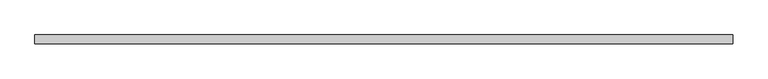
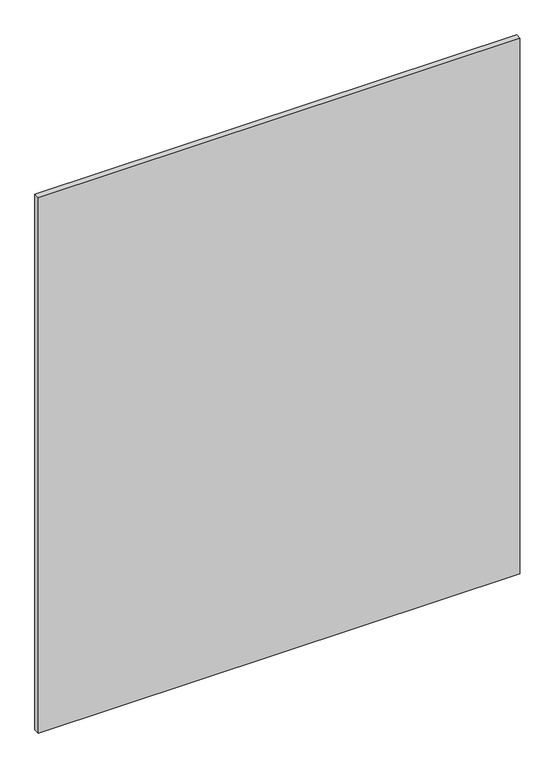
"""IFC4 building model written with IfcOpenShell, lengths in millimetres: plate geometry, 系统嵌板 : 玻璃."""

import ifcopenshell
import ifcopenshell.guid

model = None  # the IFC model being written
_history = None  # IfcOwnerHistory: only IFC2X3 demands one
_inside = {}  # id of a spatial element -> (the spatial element, [elements in it])
_under = {}  # id of a project, library or spatial element -> (it, [spatial elements below it])
_declared = {}  # id of a project -> (the project, [libraries it declares])
_typed = {}  # id of a type object -> (the type object, [elements of that type])
_made_of = {}  # id of a material, layer set ... -> (it, [elements and type objects made of it])


def new_model(schema):
    """Start an empty IFC model of exactly this schema.

    Asked for "IFC4X3", IfcOpenShell would pick the latest addendum, in which some entities
    have other attributes; the version numbers below select the first issue.
    IFC2X3 requires an IfcOwnerHistory on every rooted entity: one is made here for all.
    """
    global model, _history
    if schema == "IFC4X3":
        model = ifcopenshell.file(schema_version=(4, 3, 0, 0))
    else:
        model = ifcopenshell.file(schema=schema)
    _inside.clear()
    _under.clear()
    _declared.clear()
    _typed.clear()
    _made_of.clear()
    _history = None
    if model.schema == "IFC2X3":
        org = make("IfcOrganization", Name="unknown")
        user = make(
            "IfcPersonAndOrganization",
            ThePerson=make("IfcPerson", FamilyName="unknown"),
            TheOrganization=org,
        )
        app = make(
            "IfcApplication",
            ApplicationDeveloper=org,
            Version="unknown",
            ApplicationFullName="unknown",
            ApplicationIdentifier="unknown",
        )
        _history = make(
            "IfcOwnerHistory",
            OwningUser=user,
            OwningApplication=app,
            ChangeAction="ADDED",
            CreationDate=0,
        )
    return model


def make(cls, **values):
    """One entity of the class cls with the attributes given. An attribute that is None is left unset."""
    return model.create_entity(
        cls, **{name: value for name, value in values.items() if value is not None}
    )


def rooted(cls, **values):
    """An entity with a GlobalId (a new one), such as an element, a storey or a relation."""
    return make(cls, GlobalId=ifcopenshell.guid.new(), OwnerHistory=_history, **values)


def si_unit(unit_type, name, prefix=None):
    """IfcSIUnit, for example si_unit("LENGTHUNIT", "METRE", prefix="MILLI")."""
    return make("IfcSIUnit", UnitType=unit_type, Prefix=prefix, Name=name)


def assignment(units):
    """IfcUnitAssignment: the units of a project."""
    return None if units is None else make("IfcUnitAssignment", Units=units)


def point(xyz):
    """IfcCartesianPoint."""
    return None if xyz is None else make("IfcCartesianPoint", Coordinates=xyz)


def direction(xyz):
    """IfcDirection."""
    return None if xyz is None else make("IfcDirection", DirectionRatios=xyz)


def frame(location, z_axis=None, x_axis=None):
    """IfcAxis2Placement3D, a coordinate frame: its origin and axes. An axis left out is left unset."""
    return make(
        "IfcAxis2Placement3D",
        Location=point(location),
        Axis=direction(z_axis),
        RefDirection=direction(x_axis),
    )


def origin():
    """The frame at (0, 0, 0) with its axes left unset."""
    return frame((0.0, 0.0, 0.0))


def origin_with_axes():
    """The frame at (0, 0, 0) with the z axis (0, 0, 1) and the x axis (1, 0, 0) written out."""
    return frame((0.0, 0.0, 0.0), z_axis=(0.0, 0.0, 1.0), x_axis=(1.0, 0.0, 0.0))


def place(relative_to, where):
    """IfcLocalPlacement: puts the frame where relative to a parent placement (None: the world)."""
    return make(
        "IfcLocalPlacement", PlacementRelTo=relative_to, RelativePlacement=where
    )


def context(
    kind, dimensions, precision=None, world=None, true_north=None, identifier=None
):
    """IfcGeometricRepresentationContext, for example the 3D "Model" context."""
    return make(
        "IfcGeometricRepresentationContext",
        ContextIdentifier=identifier,
        ContextType=kind,
        CoordinateSpaceDimension=dimensions,
        Precision=precision,
        WorldCoordinateSystem=world,
        TrueNorth=true_north,
    )


def project(units=None, contexts=None):
    """IfcProject with its units and contexts."""
    return rooted(
        "IfcProject",
        Name="project",
        RepresentationContexts=contexts,
        UnitsInContext=assignment(units),
    )


def spatial(cls, under=None, at=None, **own):
    """A site, building, storey or space (cls), placed at a placement, below another one or the project."""
    s = rooted(cls, ObjectPlacement=at, **own)
    if under is not None:
        _under.setdefault(under.id(), (under, []))[1].append(s)
    return s


def polyline(points):
    """IfcPolyline through the points."""
    return make("IfcPolyline", Points=[point(p) for p in points])


def outline(outer, holes=None, kind="AREA"):
    """IfcArbitraryClosedProfileDef: a profile drawn as a closed curve; with holes, ...WithVoids."""
    if holes is None:
        return make("IfcArbitraryClosedProfileDef", ProfileType=kind, OuterCurve=outer)
    return make(
        "IfcArbitraryProfileDefWithVoids",
        ProfileType=kind,
        OuterCurve=outer,
        InnerCurves=holes,
    )


def extrude(swept, where, along, depth):
    """IfcExtrudedAreaSolid: the profile swept, set in the frame where, extruded along a direction by depth."""
    return make(
        "IfcExtrudedAreaSolid",
        SweptArea=swept,
        Position=where,
        ExtrudedDirection=direction(along),
        Depth=depth,
    )


def shape(context_of_items, identifier, shape_type, items):
    """IfcShapeRepresentation: the items that make up one representation, for example the "Body"."""
    return make(
        "IfcShapeRepresentation",
        ContextOfItems=context_of_items,
        RepresentationIdentifier=identifier,
        RepresentationType=shape_type,
        Items=items,
    )


def source(mapping_origin, context_of_items, identifier, shape_type, items):
    """IfcRepresentationMap: a shape defined once, which mapped items show again and again."""
    return make(
        "IfcRepresentationMap",
        MappingOrigin=mapping_origin,
        MappedRepresentation=shape(context_of_items, identifier, shape_type, items),
    )


def transform(
    local_origin,
    x_axis=None,
    y_axis=None,
    z_axis=None,
    scale=None,
    scale2=None,
    scale3=None,
    uniform=True,
):
    """IfcCartesianTransformationOperator3D, or its non-uniform kind. x_axis, y_axis, z_axis: its Axis1, 2, 3."""
    if uniform:
        return make(
            "IfcCartesianTransformationOperator3D",
            Axis1=direction(x_axis),
            Axis2=direction(y_axis),
            LocalOrigin=point(local_origin),
            Scale=scale,
            Axis3=direction(z_axis),
        )
    return make(
        "IfcCartesianTransformationOperator3DnonUniform",
        Axis1=direction(x_axis),
        Axis2=direction(y_axis),
        LocalOrigin=point(local_origin),
        Scale=scale,
        Axis3=direction(z_axis),
        Scale2=scale2,
        Scale3=scale3,
    )


def mapped(mapping_source, mapping_target):
    """IfcMappedItem: shows the shape of a source again, moved by a transform."""
    return make(
        "IfcMappedItem", MappingSource=mapping_source, MappingTarget=mapping_target
    )


def made_of(thing, what):
    """Note that an element or type object is made of a material, layer set ...; save() writes the relation."""
    if what is not None:
        _made_of.setdefault(what.id(), (what, []))[1].append(thing)
    return thing


def element(
    cls,
    number,
    at=None,
    inside=None,
    cuts=None,
    type_object=None,
    material=None,
    context=None,
    identifier="Body",
    shape_type=None,
    held_by="IfcProductDefinitionShape",
    body=None,
    shapes=None,
    **own,
):
    """One element of the class cls, such as IfcWall. Its Tag is "e" and its number.

    at: its placement. inside: the storey or other place that contains it. cuts: it is an
    opening in that element (IfcRelVoidsElement). A single representation is given by context,
    identifier, shape_type and body (its items); several are given by shapes. held_by: the class
    of the entity that holds the representations. save() writes the other relations.
    """
    e = rooted(cls, Tag="e%d" % number, ObjectPlacement=at, **own)
    if body is not None:
        shapes = [shape(context, identifier, shape_type, body)]
    if shapes is not None:
        e.Representation = make(held_by, Representations=shapes)
    if inside is not None:
        _inside.setdefault(inside.id(), (inside, []))[1].append(e)
    if cuts is not None:
        rooted(
            "IfcRelVoidsElement", RelatingBuildingElement=cuts, RelatedOpeningElement=e
        )
    if type_object is not None:
        _typed.setdefault(type_object.id(), (type_object, []))[1].append(e)
    return made_of(e, material)


def aggregate(whole, parts):
    """IfcRelAggregates: a whole, such as a stair, and the parts it consists of."""
    return rooted("IfcRelAggregates", RelatingObject=whole, RelatedObjects=parts)


def save(model, path):
    """Write the relations noted so far, then the file.

    IfcRelAggregates (storeys below a building ...), IfcRelContainedInSpatialStructure (elements
    in a storey), IfcRelDefinesByType, IfcRelAssociatesMaterial and IfcRelDeclares: one each for
    every whole, place, type object, material and project.
    """
    for whole, parts in _under.values():
        aggregate(whole, parts)
    for where, things in _inside.values():
        rooted(
            "IfcRelContainedInSpatialStructure",
            RelatedElements=things,
            RelatingStructure=where,
        )
    for kind, things in _typed.values():
        rooted("IfcRelDefinesByType", RelatedObjects=things, RelatingType=kind)
    for what, things in _made_of.values():
        rooted("IfcRelAssociatesMaterial", RelatedObjects=things, RelatingMaterial=what)
    for by, libraries in _declared.values():
        rooted("IfcRelDeclares", RelatingContext=by, RelatedDefinitions=libraries)
    model.write(path)


def plate_f141ded5(model_context):
    return source(origin(), model_context, "Body", "SweptSolid", [
        extrude(outline(polyline([(1000.0, -12.5), (-1000.0, -12.5), (-1000.0, 12.5), (1000.0, 12.5), (1000.0, -12.5)])), origin_with_axes(), (0.0, 0.0, 1.0), 2350.0),
    ])


if __name__ == "__main__":
    model = new_model("IFC4")
    model_context = context("Model", 3, world=origin())
    ifc_project = project(units=[si_unit("LENGTHUNIT", "METRE", prefix="MILLI")], contexts=[model_context])
    site = spatial("IfcSite", under=ifc_project)
    building = spatial("IfcBuilding", under=site)
    placement = place(None, origin())
    plate_shape = plate_f141ded5(model_context)
    element("IfcPlate", 1, ObjectType="系统嵌板 : 玻璃", at=placement, inside=building, context=model_context, shape_type="MappedRepresentation", body=[
        mapped(plate_shape, transform((0.0, 0.0, 0.0), x_axis=(1.0, 0.0, 0.0), y_axis=(0.0, 1.0, 0.0), z_axis=(0.0, 0.0, 1.0))),
    ])
    save(model, "model.ifc")
